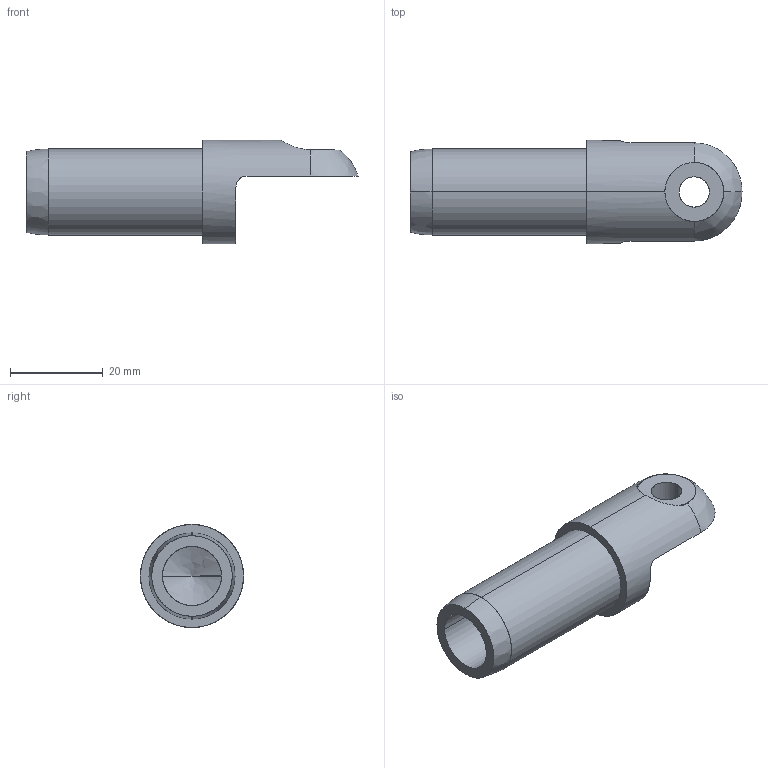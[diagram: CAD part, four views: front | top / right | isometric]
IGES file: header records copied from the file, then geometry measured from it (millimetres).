
Start section: SolidWorks IGES file using analytic representation for surfaces
Global section: file name: \\SERVER3\Design\_New Design Drive Folder List\_Design Vault\AAI\Modular Round Tube Connectors\Solidworks Models\STP Files\12202013\0.750 Inch Modular Connectors\DRP-002-0529-00.IGS; native system: SolidWorks 2013; preprocessor: SolidWorks 2013; author: tbraun; date: 131220.123506; units: inch
Bounding box: 71.54 x 22.23 x 22.23 mm (x, y, z)
Surface area: 6193.4 mm2 (no closed solid volume)
Topology: 0 solids, 0 shells, 22 faces, 462 edges, 460 vertices
Faces by surface type: revolution 13, bspline 9
